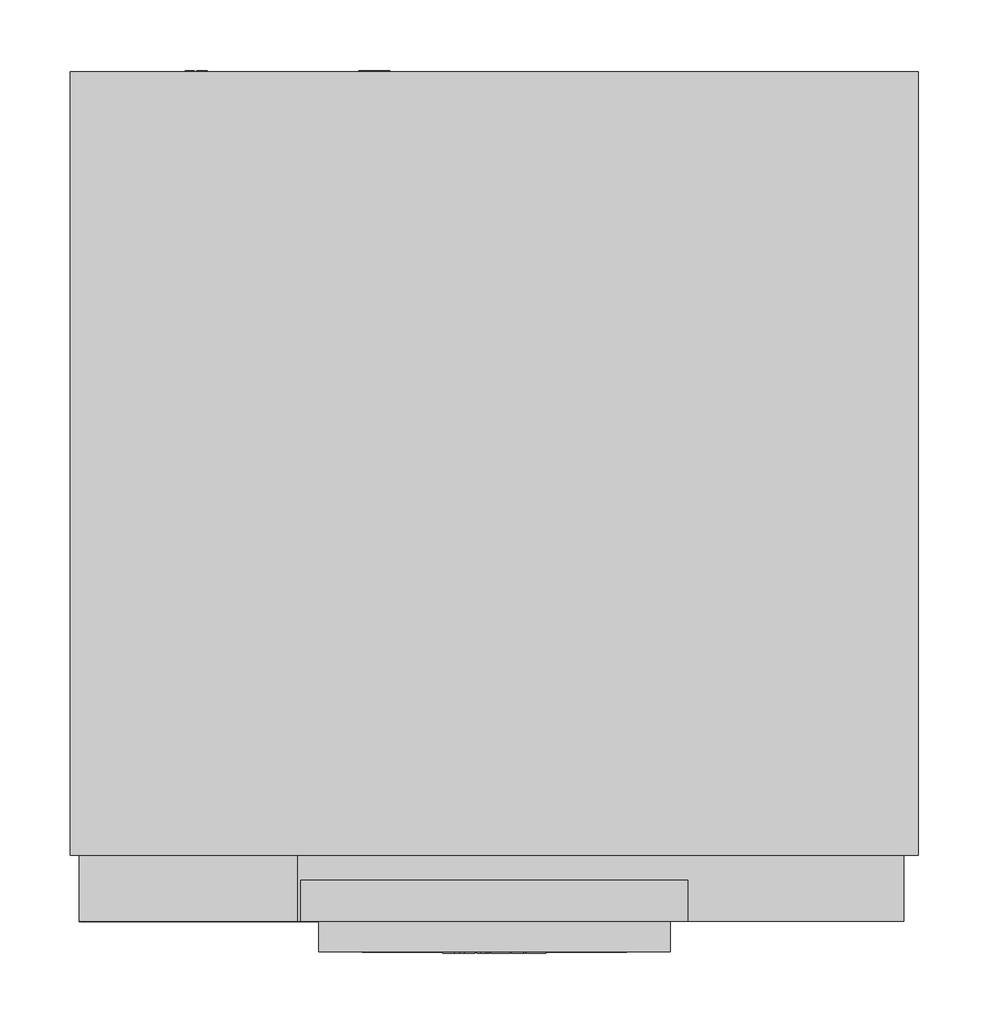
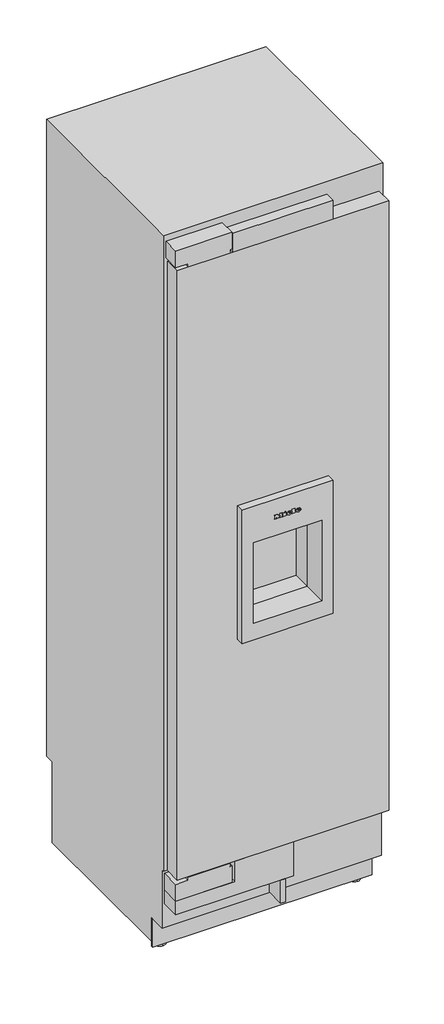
# Not in any storey: 1 proxy.
"""IFC4 building model written with IfcOpenShell, lengths in millimetres."""

import ifcopenshell
import ifcopenshell.guid

model = None  # the IFC model being written
_history = None  # IfcOwnerHistory: only IFC2X3 demands one
_inside = {}  # id of a spatial element -> (the spatial element, [elements in it])
_under = {}  # id of a project, library or spatial element -> (it, [spatial elements below it])
_declared = {}  # id of a project -> (the project, [libraries it declares])
_typed = {}  # id of a type object -> (the type object, [elements of that type])
_made_of = {}  # id of a material, layer set ... -> (it, [elements and type objects made of it])


def new_model(schema):
    """Start an empty IFC model of exactly this schema.

    Asked for "IFC4X3", IfcOpenShell would pick the latest addendum, in which some entities
    have other attributes; the version numbers below select the first issue.
    IFC2X3 requires an IfcOwnerHistory on every rooted entity: one is made here for all.
    """
    global model, _history
    if schema == "IFC4X3":
        model = ifcopenshell.file(schema_version=(4, 3, 0, 0))
    else:
        model = ifcopenshell.file(schema=schema)
    _inside.clear()
    _under.clear()
    _declared.clear()
    _typed.clear()
    _made_of.clear()
    _history = None
    if model.schema == "IFC2X3":
        org = make("IfcOrganization", Name="unknown")
        user = make(
            "IfcPersonAndOrganization",
            ThePerson=make("IfcPerson", FamilyName="unknown"),
            TheOrganization=org,
        )
        app = make(
            "IfcApplication",
            ApplicationDeveloper=org,
            Version="unknown",
            ApplicationFullName="unknown",
            ApplicationIdentifier="unknown",
        )
        _history = make(
            "IfcOwnerHistory",
            OwningUser=user,
            OwningApplication=app,
            ChangeAction="ADDED",
            CreationDate=0,
        )
    return model


def make(cls, **values):
    """One entity of the class cls with the attributes given. An attribute that is None is left unset."""
    return model.create_entity(
        cls, **{name: value for name, value in values.items() if value is not None}
    )


def rooted(cls, **values):
    """An entity with a GlobalId (a new one), such as an element, a storey or a relation."""
    return make(cls, GlobalId=ifcopenshell.guid.new(), OwnerHistory=_history, **values)


def si_unit(unit_type, name, prefix=None):
    """IfcSIUnit, for example si_unit("LENGTHUNIT", "METRE", prefix="MILLI")."""
    return make("IfcSIUnit", UnitType=unit_type, Prefix=prefix, Name=name)


def assignment(units):
    """IfcUnitAssignment: the units of a project."""
    return None if units is None else make("IfcUnitAssignment", Units=units)


def point(xyz):
    """IfcCartesianPoint."""
    return None if xyz is None else make("IfcCartesianPoint", Coordinates=xyz)


def direction(xyz):
    """IfcDirection."""
    return None if xyz is None else make("IfcDirection", DirectionRatios=xyz)


def frame(location, z_axis=None, x_axis=None):
    """IfcAxis2Placement3D, a coordinate frame: its origin and axes. An axis left out is left unset."""
    return make(
        "IfcAxis2Placement3D",
        Location=point(location),
        Axis=direction(z_axis),
        RefDirection=direction(x_axis),
    )


def frame_2d(location, x_axis=None):
    """IfcAxis2Placement2D, a coordinate frame in the plane: its origin and x axis."""
    return make(
        "IfcAxis2Placement2D", Location=point(location), RefDirection=direction(x_axis)
    )


def origin():
    """The frame at (0, 0, 0) with its axes left unset."""
    return frame((0.0, 0.0, 0.0))


def place(relative_to, where):
    """IfcLocalPlacement: puts the frame where relative to a parent placement (None: the world)."""
    return make(
        "IfcLocalPlacement", PlacementRelTo=relative_to, RelativePlacement=where
    )


def context(
    kind, dimensions, precision=None, world=None, true_north=None, identifier=None
):
    """IfcGeometricRepresentationContext, for example the 3D "Model" context."""
    return make(
        "IfcGeometricRepresentationContext",
        ContextIdentifier=identifier,
        ContextType=kind,
        CoordinateSpaceDimension=dimensions,
        Precision=precision,
        WorldCoordinateSystem=world,
        TrueNorth=true_north,
    )


def project(units=None, contexts=None):
    """IfcProject with its units and contexts."""
    return rooted(
        "IfcProject",
        Name="project",
        RepresentationContexts=contexts,
        UnitsInContext=assignment(units),
    )


def spatial(cls, under=None, at=None, **own):
    """A site, building, storey or space (cls), placed at a placement, below another one or the project."""
    s = rooted(cls, ObjectPlacement=at, **own)
    if under is not None:
        _under.setdefault(under.id(), (under, []))[1].append(s)
    return s


def polyline(points):
    """IfcPolyline through the points."""
    return make("IfcPolyline", Points=[point(p) for p in points])


def circle_curve(where, radius):
    """IfcCircle in the frame where."""
    return make("IfcCircle", Position=where, Radius=radius)


def ellipse_curve(where, semi_axis1, semi_axis2):
    """IfcEllipse in the frame where."""
    return make(
        "IfcEllipse", Position=where, SemiAxis1=semi_axis1, SemiAxis2=semi_axis2
    )


def trimmed(basis, trim1, trim2, sense, master):
    """IfcTrimmedCurve: the piece of a basis curve between two trims."""
    return make(
        "IfcTrimmedCurve",
        BasisCurve=basis,
        Trim1=trim1,
        Trim2=trim2,
        SenseAgreement=sense,
        MasterRepresentation=master,
    )


def segment(curve, same_sense, transition):
    """IfcCompositeCurveSegment."""
    return make(
        "IfcCompositeCurveSegment",
        Transition=transition,
        SameSense=same_sense,
        ParentCurve=curve,
    )


def composite_curve(segments, self_intersect=None):
    """IfcCompositeCurve: segments joined end to end."""
    return make("IfcCompositeCurve", Segments=segments, SelfIntersect=self_intersect)


def outline(outer, holes=None, kind="AREA"):
    """IfcArbitraryClosedProfileDef: a profile drawn as a closed curve; with holes, ...WithVoids."""
    if holes is None:
        return make("IfcArbitraryClosedProfileDef", ProfileType=kind, OuterCurve=outer)
    return make(
        "IfcArbitraryProfileDefWithVoids",
        ProfileType=kind,
        OuterCurve=outer,
        InnerCurves=holes,
    )


def extrude(swept, where, along, depth):
    """IfcExtrudedAreaSolid: the profile swept, set in the frame where, extruded along a direction by depth."""
    return make(
        "IfcExtrudedAreaSolid",
        SweptArea=swept,
        Position=where,
        ExtrudedDirection=direction(along),
        Depth=depth,
    )


def faces_of(points, faces, orient=None, outer=None):
    """IfcFace entities. A face is a list of loops; a loop is a list of indices into points, from 0.

    orient and outer hold one flag for each loop. By default every Orientation is true, the
    first loop of a face is its IfcFaceOuterBound and the others are IfcFaceBound.
    """
    made = []
    for i, loops in enumerate(faces):
        bounds = []
        for j, loop in enumerate(loops):
            is_outer = j == 0 if outer is None else outer[i][j]
            bounds.append(
                make(
                    "IfcFaceOuterBound" if is_outer else "IfcFaceBound",
                    Bound=make("IfcPolyLoop", Polygon=[points[k] for k in loop]),
                    Orientation=True if orient is None else orient[i][j],
                )
            )
        made.append(make("IfcFace", Bounds=bounds))
    return made


def faceted_brep(points, faces, orient=None, outer=None, voids=None):
    """IfcFacetedBrep: a solid bounded by flat faces; with voids (closed shells), ...WithVoids."""
    shared = [point(p) for p in points]
    hull = make("IfcClosedShell", CfsFaces=faces_of(shared, faces, orient, outer))
    if voids is None:
        return make("IfcFacetedBrep", Outer=hull)
    return make(
        "IfcFacetedBrepWithVoids",
        Outer=hull,
        Voids=[
            make(cls, CfsFaces=faces_of(shared, fs, o, b)) for cls, fs, o, b in voids
        ],
    )


def shape(context_of_items, identifier, shape_type, items):
    """IfcShapeRepresentation: the items that make up one representation, for example the "Body"."""
    return make(
        "IfcShapeRepresentation",
        ContextOfItems=context_of_items,
        RepresentationIdentifier=identifier,
        RepresentationType=shape_type,
        Items=items,
    )


def source(mapping_origin, context_of_items, identifier, shape_type, items):
    """IfcRepresentationMap: a shape defined once, which mapped items show again and again."""
    return make(
        "IfcRepresentationMap",
        MappingOrigin=mapping_origin,
        MappedRepresentation=shape(context_of_items, identifier, shape_type, items),
    )


def transform(
    local_origin,
    x_axis=None,
    y_axis=None,
    z_axis=None,
    scale=None,
    scale2=None,
    scale3=None,
    uniform=True,
):
    """IfcCartesianTransformationOperator3D, or its non-uniform kind. x_axis, y_axis, z_axis: its Axis1, 2, 3."""
    if uniform:
        return make(
            "IfcCartesianTransformationOperator3D",
            Axis1=direction(x_axis),
            Axis2=direction(y_axis),
            LocalOrigin=point(local_origin),
            Scale=scale,
            Axis3=direction(z_axis),
        )
    return make(
        "IfcCartesianTransformationOperator3DnonUniform",
        Axis1=direction(x_axis),
        Axis2=direction(y_axis),
        LocalOrigin=point(local_origin),
        Scale=scale,
        Axis3=direction(z_axis),
        Scale2=scale2,
        Scale3=scale3,
    )


def mapped(mapping_source, mapping_target):
    """IfcMappedItem: shows the shape of a source again, moved by a transform."""
    return make(
        "IfcMappedItem", MappingSource=mapping_source, MappingTarget=mapping_target
    )


def made_of(thing, what):
    """Note that an element or type object is made of a material, layer set ...; save() writes the relation."""
    if what is not None:
        _made_of.setdefault(what.id(), (what, []))[1].append(thing)
    return thing


def element(
    cls,
    number,
    at=None,
    inside=None,
    cuts=None,
    type_object=None,
    material=None,
    context=None,
    identifier="Body",
    shape_type=None,
    held_by="IfcProductDefinitionShape",
    body=None,
    shapes=None,
    **own,
):
    """One element of the class cls, such as IfcWall. Its Tag is "e" and its number.

    at: its placement. inside: the storey or other place that contains it. cuts: it is an
    opening in that element (IfcRelVoidsElement). A single representation is given by context,
    identifier, shape_type and body (its items); several are given by shapes. held_by: the class
    of the entity that holds the representations. save() writes the other relations.
    """
    e = rooted(cls, Tag="e%d" % number, ObjectPlacement=at, **own)
    if body is not None:
        shapes = [shape(context, identifier, shape_type, body)]
    if shapes is not None:
        e.Representation = make(held_by, Representations=shapes)
    if inside is not None:
        _inside.setdefault(inside.id(), (inside, []))[1].append(e)
    if cuts is not None:
        rooted(
            "IfcRelVoidsElement", RelatingBuildingElement=cuts, RelatedOpeningElement=e
        )
    if type_object is not None:
        _typed.setdefault(type_object.id(), (type_object, []))[1].append(e)
    return made_of(e, material)


def aggregate(whole, parts):
    """IfcRelAggregates: a whole, such as a stair, and the parts it consists of."""
    return rooted("IfcRelAggregates", RelatingObject=whole, RelatedObjects=parts)


def save(model, path):
    """Write the relations noted so far, then the file.

    IfcRelAggregates (storeys below a building ...), IfcRelContainedInSpatialStructure (elements
    in a storey), IfcRelDefinesByType, IfcRelAssociatesMaterial and IfcRelDeclares: one each for
    every whole, place, type object, material and project.
    """
    for whole, parts in _under.values():
        aggregate(whole, parts)
    for where, things in _inside.values():
        rooted(
            "IfcRelContainedInSpatialStructure",
            RelatedElements=things,
            RelatingStructure=where,
        )
    for kind, things in _typed.values():
        rooted("IfcRelDefinesByType", RelatedObjects=things, RelatingType=kind)
    for what, things in _made_of.values():
        rooted("IfcRelAssociatesMaterial", RelatedObjects=things, RelatingMaterial=what)
    for by, libraries in _declared.values():
        rooted("IfcRelDeclares", RelatingContext=by, RelatedDefinitions=libraries)
    model.write(path)


def plane_surface(at):
    """IfcPlane: the flat surface through the origin of the frame at, square to its z axis."""
    return make("IfcPlane", Position=at)


def cylinder_surface(at, radius):
    """IfcCylindricalSurface: all points at the distance radius from the z axis of the frame at."""
    return make("IfcCylindricalSurface", Position=at, Radius=radius)


def revolved_surface(curve, axis_point, axis_direction):
    """IfcSurfaceOfRevolution: the curve turned about the line through axis_point along axis_direction."""
    return make(
        "IfcSurfaceOfRevolution",
        SweptCurve=make("IfcArbitraryOpenProfileDef", ProfileType="CURVE", Curve=curve),
        AxisPosition=make("IfcAxis1Placement", Location=point(axis_point), Axis=direction(axis_direction)),
    )


def extruded_surface(curve, direction_of_extrusion, depth):
    """IfcSurfaceOfLinearExtrusion: the curve pushed along a direction by depth."""
    return make(
        "IfcSurfaceOfLinearExtrusion",
        SweptCurve=make("IfcArbitraryOpenProfileDef", ProfileType="CURVE", Curve=curve),
        ExtrudedDirection=direction(direction_of_extrusion),
        Depth=depth,
    )


def advanced_brep(points, edges, surfaces, faces):
    """IfcAdvancedBrep: a solid bounded by faces that lie on surfaces and meet in shared edges.

    An edge is (start, end): straight between two places in points (the first is 0);
    or (start, end, curve); or (start, end, curve, False) where it runs against its curve.
    A face is (place in surfaces, loops), or (place, loops, False) where it looks against
    its surface's normal. A loop lists edges by number (the first is 1), with a minus sign
    where the edge is run from its end to its start. The first loop is the outer one.
    """
    corners = [point(p) for p in points]
    vertices = [make("IfcVertexPoint", VertexGeometry=c) for c in corners]
    made = []
    for start, end, *more in edges:
        made.append(
            make(
                "IfcEdgeCurve",
                EdgeStart=vertices[start],
                EdgeEnd=vertices[end],
                EdgeGeometry=more[0] if more else make("IfcPolyline", Points=[corners[start], corners[end]]),
                SameSense=more[1] if len(more) > 1 else True,
            )
        )
    hull = []
    for where, loops, *sense in faces:
        bounds = []
        for j, loop in enumerate(loops):
            ring = [make("IfcOrientedEdge", EdgeElement=made[abs(k) - 1], Orientation=k > 0) for k in loop]
            bounds.append(
                make(
                    "IfcFaceOuterBound" if j == 0 else "IfcFaceBound",
                    Bound=make("IfcEdgeLoop", EdgeList=ring),
                    Orientation=True,
                )
            )
        hull.append(make("IfcAdvancedFace", Bounds=bounds, FaceSurface=surfaces[where], SameSense=sense[0] if sense else True))
    return make("IfcAdvancedBrep", Outer=make("IfcClosedShell", CfsFaces=hull))


def specialty_equipment_8bc85f02(model_context):
    return source(origin(), model_context, "Body", "SolidModel", [
        extrude(outline(polyline([(-6.5, 54.0), (6.5, 54.0), (6.5, 0.0), (-6.5, 0.0), (-6.5, 54.0)])), frame((0.0, 0.0, 99.0), z_axis=(0.0, 0.0, 1.0), x_axis=(1.0, 0.0, 0.0)), (0.0, 0.0, 1.0), 67.0),
        faceted_brep([(125.0, -21.7, 1295.0), (-125.0, -21.7, 1295.0), (-125.0, -21.7, 908.0), (125.0, -21.7, 908.0), (94.0, -21.7, 1190.0), (94.0, -21.7, 956.0), (-94.0, -21.7, 956.0), (-94.0, -21.7, 1190.0), (125.0, 47.0, 1295.0), (125.0, 47.0, 908.0), (-125.0, 47.0, 908.0), (-125.0, 47.0, 1295.0), (94.0, 47.0, 1190.0), (-94.0, 47.0, 1190.0), (-94.0, 47.0, 956.0), (94.0, 47.0, 956.0), (-94.0, -11.7943775, 1190.0), (94.0, -11.7943775, 1190.0), (-94.0, -11.7943775, 956.0), (94.0, -11.7943775, 956.0)], [[[0, 1, 2, 3], [4, 5, 6, 7]], [[8, 9, 10, 11], [12, 13, 14, 15]], [[0, 3, 9, 8]], [[3, 2, 10, 9]], [[2, 1, 11, 10]], [[1, 0, 8, 11]], [[4, 7, 16, 13, 12, 17]], [[7, 6, 18, 14, 13, 16]], [[6, 5, 19, 15, 14, 18]], [[5, 4, 17, 12, 15, 19]]]),
        extrude(outline(polyline([(2036.0, 291.0), (2036.0, -291.0), (265.0, -291.0), (265.0, 291.0), (2036.0, 291.0)]), holes=[polyline([(1295.0, 125.0), (908.0, 125.0), (908.0, -125.0), (1295.0, -125.0), (1295.0, 125.0)])]), frame((0.0, 0.0, 0.0), z_axis=(0.0, 1.0, 0.0), x_axis=(0.0, 0.0, 1.0)), (0.0, 0.0, 1.0), 47.0),
        faceted_brep([(-158.0, 47.0, 863.0), (-158.0, 47.0, 1335.0), (-158.0, 239.0, 1335.0), (-158.0, 239.0, 987.0), (-158.0, 140.0, 863.0), (158.0, 47.0, 863.0), (158.0, 140.0, 863.0), (158.0, 239.0, 987.0), (158.0, 239.0, 1335.0), (158.0, 47.0, 1335.0), (94.0, 47.0, 1190.0), (94.0, 47.0, 956.0), (-94.0, 47.0, 956.0), (-94.0, 47.0, 1190.0), (94.0, 100.0, 1190.0), (-94.0, 100.0, 1190.0), (-94.0, 100.0, 956.0), (94.0, 100.0, 956.0)], [[[0, 1, 2, 3, 4]], [[5, 6, 7, 8, 9]], [[0, 4, 6, 5]], [[4, 3, 7, 6]], [[3, 2, 8, 7]], [[2, 1, 9, 8]], [[1, 0, 5, 9], [10, 11, 12, 13]], [[14, 15, 16, 17]], [[14, 17, 11, 10]], [[17, 16, 12, 11]], [[16, 15, 13, 12]], [[15, 14, 10, 13]]]),
        extrude(outline(polyline([(-137.5, 29.0), (137.5, 29.0), (137.5, 0.0), (-137.5, 0.0), (-137.5, 29.0)])), frame((0.0, 0.0, 2036.0), z_axis=(0.0, 0.0, 1.0), x_axis=(1.0, 0.0, 0.0)), (0.0, 0.0, 1.0), 56.0),
        advanced_brep(
        [(28.472, -22.7, 1241.344), (28.472, -22.7, 1242.556), (36.5, -22.7, 1242.556), (22.532, -22.7, 1242.556), (25.832, -22.7, 1238.5), (36.296, -22.7, 1241.344), (32.672, -22.7, 1241.344), (29.816, -22.7, 1240.0), (28.472, -22.7, 1244.092), (28.472, -22.7, 1245.4), (30.524, -22.7, 1245.4), (30.524, -22.7, 1244.092), (28.472, -21.7, 1241.344), (29.816, -21.7, 1240.0), (32.672, -21.7, 1241.344), (36.296, -21.7, 1241.344), (25.832, -21.7, 1238.5), (22.532, -21.7, 1242.556), (36.5, -21.7, 1242.556), (28.472, -21.7, 1242.556), (28.472, -21.7, 1244.092), (30.524, -21.7, 1244.092), (30.524, -21.7, 1245.4), (28.472, -21.7, 1245.4)],
        [
            (0, 1),
            (1, 2),
            (2, 3, ellipse_curve(frame((29.516, -22.7, 1242.556), z_axis=(0.0, -1.0, 0.0), x_axis=(-1.0, 0.0, 0.0)), 6.984, 5.772)),
            (3, 4, circle_curve(frame((27.1760655, -22.7, 1242.964), z_axis=(0.0, -1.0, 0.0), x_axis=(0.0, 0.0, -1.0)), 4.6619532)),
            (4, 5, circle_curve(frame((29.3761904, -22.7, 1246.132), z_axis=(0.0, -1.0, 0.0), x_axis=(0.0, 0.0, -1.0)), 8.4147911)),
            (5, 6),
            (6, 7, circle_curve(frame((30.4025882, -22.7, 1242.46), z_axis=(0.0, 1.0, 0.0), x_axis=(0.0, 0.0, -1.0)), 2.5289693)),
            (7, 0, circle_curve(frame((29.816, -22.7, 1241.344), z_axis=(0.0, 1.0, 0.0), x_axis=(0.0, 0.0, -1.0)), 1.344)),
            (8, 9),
            (9, 10, circle_curve(frame((29.498, -22.7, 1245.4), z_axis=(0.0, 1.0, 0.0), x_axis=(0.0, 0.0, -1.0)), 1.026)),
            (10, 11),
            (11, 8),
            (12, 13, circle_curve(frame((29.816, -21.7, 1241.344), z_axis=(0.0, -1.0, 0.0), x_axis=(0.0, 0.0, -1.0)), 1.344)),
            (13, 14, circle_curve(frame((30.4025882, -21.7, 1242.46), z_axis=(0.0, -1.0, 0.0), x_axis=(0.0, 0.0, -1.0)), 2.5289693)),
            (14, 15),
            (15, 16, circle_curve(frame((29.3761904, -21.7, 1246.132), z_axis=(0.0, 1.0, 0.0), x_axis=(0.0, 0.0, -1.0)), 8.4147911)),
            (16, 17, circle_curve(frame((27.1760655, -21.7, 1242.964), z_axis=(0.0, 1.0, 0.0), x_axis=(0.0, 0.0, -1.0)), 4.6619532)),
            (17, 18, ellipse_curve(frame((29.516, -21.7, 1242.556), z_axis=(0.0, 1.0, 0.0), x_axis=(-1.0, 0.0, 0.0)), 6.984, 5.772)),
            (18, 19),
            (19, 12),
            (20, 21),
            (21, 22),
            (22, 23, circle_curve(frame((29.498, -21.7, 1245.4), z_axis=(0.0, -1.0, 0.0), x_axis=(0.0, 0.0, -1.0)), 1.026)),
            (23, 20),
            (0, 12),
            (19, 1),
            (18, 2),
            (5, 15),
            (14, 6),
            (17, 3),
            (13, 7),
            (16, 4),
            (8, 20),
            (23, 9),
            (22, 10),
            (21, 11),
        ],
        [
            plane_surface(frame((28.472, -22.7, 1242.556), z_axis=(0.0, -1.0, 0.0), x_axis=(0.0, 0.0, 1.0))),
            plane_surface(frame((28.472, -21.7, 1242.556), z_axis=(0.0, 1.0, 0.0), x_axis=(0.0, 0.0, -1.0))),
            plane_surface(frame((28.472, -22.7, 1241.344), z_axis=(1.0, 0.0, 0.0), x_axis=(0.0, 1.0, 0.0))),
            plane_surface(frame((28.472, -22.7, 1242.556), z_axis=(0.0, 0.0, -1.0), x_axis=(0.0, 1.0, 0.0))),
            plane_surface(frame((36.296, -22.7, 1241.344), z_axis=(0.0, 0.0, 1.0), x_axis=(0.0, 1.0, 0.0))),
            extruded_surface(trimmed(ellipse_curve(frame((29.516, -20.7, 1242.556), z_axis=(0.0, -1.0, 0.0), x_axis=(-1.0, 0.0, 0.0)), 6.984, 5.772), [point((36.5, -20.7, 1242.556))], [point((22.532, -20.7, 1242.556))], True, "CARTESIAN"), (0.0, -1.0, 0.0), 1.0),
            revolved_surface(polyline([(30.4025882, -21.7, 1239.9310307), (30.4025882, -22.7, 1239.9310307)]), (30.4025882, -21.7, 1242.46), (0.0, 1.0, 0.0)),
            revolved_surface(polyline([(29.816, -21.7, 1240.0), (29.816, -22.7, 1240.0)]), (29.816, -21.7, 1241.344), (0.0, 1.0, 0.0)),
            cylinder_surface(frame((27.1760655, -21.7, 1242.964), z_axis=(0.0, -1.0, 0.0), x_axis=(0.0, 0.0, -1.0)), 4.6619532),
            cylinder_surface(frame((29.3761904, -21.7, 1246.132), z_axis=(0.0, -1.0, 0.0), x_axis=(0.0, 0.0, -1.0)), 8.4147911),
            plane_surface(frame((28.472, -22.7, 1244.092), z_axis=(1.0, 0.0, 0.0), x_axis=(0.0, 1.0, 0.0))),
            revolved_surface(polyline([(29.498, -21.7, 1244.374), (29.498, -22.7, 1244.374)]), (29.498, -21.7, 1245.4), (0.0, 1.0, 0.0)),
            plane_surface(frame((30.524, -22.7, 1245.4), z_axis=(-1.0, 0.0, 0.0), x_axis=(0.0, 1.0, 0.0))),
            plane_surface(frame((30.524, -22.7, 1244.092), z_axis=(0.0, 0.0, 1.0), x_axis=(0.0, 1.0, 0.0))),
        ],
        [
            (0, [[1, 2, 3, 4, 5, 6, 7, 8], [9, 10, 11, 12]]),
            (1, [[13, 14, 15, 16, 17, 18, 19, 20], [21, 22, 23, 24]]),
            (2, [[-1, 25, -20, 26]]),
            (3, [[-2, -26, -19, 27]]),
            (4, [[-6, 28, -15, 29]]),
            (5, [[-3, -27, -18, 30]]),
            (6, [[-7, -29, -14, 31]]),
            (7, [[-8, -31, -13, -25]]),
            (8, [[-4, -30, -17, 32]]),
            (9, [[-5, -32, -16, -28]]),
            (10, [[-9, 33, -24, 34]]),
            (11, [[-10, -34, -23, 35]]),
            (12, [[-11, -35, -22, 36]]),
            (13, [[-12, -36, -21, -33]]),
        ],
    ),
        advanced_brep(
        [(3.428, -22.7, 1241.344), (3.428, -22.7, 1242.556), (11.456, -22.7, 1242.556), (-2.512, -22.7, 1242.556), (0.788, -22.7, 1238.5), (11.252, -22.7, 1241.344), (7.628, -22.7, 1241.344), (4.772, -22.7, 1240.0), (3.428, -22.7, 1244.092), (3.428, -22.7, 1245.4), (5.48, -22.7, 1245.4), (5.48, -22.7, 1244.092), (3.428, -21.7, 1241.344), (4.772, -21.7, 1240.0), (7.628, -21.7, 1241.344), (11.252, -21.7, 1241.344), (0.788, -21.7, 1238.5), (-2.512, -21.7, 1242.556), (11.456, -21.7, 1242.556), (3.428, -21.7, 1242.556), (3.428, -21.7, 1244.092), (5.48, -21.7, 1244.092), (5.48, -21.7, 1245.4), (3.428, -21.7, 1245.4)],
        [
            (0, 1),
            (1, 2),
            (2, 3, ellipse_curve(frame((4.472, -22.7, 1242.556), z_axis=(0.0, -1.0, 0.0), x_axis=(-1.0, 0.0, 0.0)), 6.984, 5.772)),
            (3, 4, circle_curve(frame((2.1320655, -22.7, 1242.964), z_axis=(0.0, -1.0, 0.0), x_axis=(0.0, 0.0, -1.0)), 4.6619532)),
            (4, 5, circle_curve(frame((4.3321904, -22.7, 1246.132), z_axis=(0.0, -1.0, 0.0), x_axis=(0.0, 0.0, -1.0)), 8.4147911)),
            (5, 6),
            (6, 7, circle_curve(frame((5.3585882, -22.7, 1242.46), z_axis=(0.0, 1.0, 0.0), x_axis=(0.0, 0.0, -1.0)), 2.5289693)),
            (7, 0, circle_curve(frame((4.772, -22.7, 1241.344), z_axis=(0.0, 1.0, 0.0), x_axis=(0.0, 0.0, -1.0)), 1.344)),
            (8, 9),
            (9, 10, circle_curve(frame((4.454, -22.7, 1245.4), z_axis=(0.0, 1.0, 0.0), x_axis=(0.0, 0.0, -1.0)), 1.026)),
            (10, 11),
            (11, 8),
            (12, 13, circle_curve(frame((4.772, -21.7, 1241.344), z_axis=(0.0, -1.0, 0.0), x_axis=(0.0, 0.0, -1.0)), 1.344)),
            (13, 14, circle_curve(frame((5.3585882, -21.7, 1242.46), z_axis=(0.0, -1.0, 0.0), x_axis=(0.0, 0.0, -1.0)), 2.5289693)),
            (14, 15),
            (15, 16, circle_curve(frame((4.3321904, -21.7, 1246.132), z_axis=(0.0, 1.0, 0.0), x_axis=(0.0, 0.0, -1.0)), 8.4147911)),
            (16, 17, circle_curve(frame((2.1320655, -21.7, 1242.964), z_axis=(0.0, 1.0, 0.0), x_axis=(0.0, 0.0, -1.0)), 4.6619532)),
            (17, 18, ellipse_curve(frame((4.472, -21.7, 1242.556), z_axis=(0.0, 1.0, 0.0), x_axis=(-1.0, 0.0, 0.0)), 6.984, 5.772)),
            (18, 19),
            (19, 12),
            (20, 21),
            (21, 22),
            (22, 23, circle_curve(frame((4.454, -21.7, 1245.4), z_axis=(0.0, -1.0, 0.0), x_axis=(0.0, 0.0, -1.0)), 1.026)),
            (23, 20),
            (0, 12),
            (19, 1),
            (18, 2),
            (5, 15),
            (14, 6),
            (17, 3),
            (13, 7),
            (16, 4),
            (8, 20),
            (23, 9),
            (22, 10),
            (21, 11),
        ],
        [
            plane_surface(frame((3.428, -22.7, 1242.556), z_axis=(0.0, -1.0, 0.0), x_axis=(0.0, 0.0, 1.0))),
            plane_surface(frame((3.428, -21.7, 1242.556), z_axis=(0.0, 1.0, 0.0), x_axis=(0.0, 0.0, -1.0))),
            plane_surface(frame((3.428, -22.7, 1241.344), z_axis=(1.0, 0.0, 0.0), x_axis=(0.0, 1.0, 0.0))),
            plane_surface(frame((3.428, -22.7, 1242.556), z_axis=(0.0, 0.0, -1.0), x_axis=(0.0, 1.0, 0.0))),
            plane_surface(frame((11.252, -22.7, 1241.344), z_axis=(0.0, 0.0, 1.0), x_axis=(0.0, 1.0, 0.0))),
            extruded_surface(trimmed(ellipse_curve(frame((4.472, -20.7, 1242.556), z_axis=(0.0, -1.0, 0.0), x_axis=(-1.0, 0.0, 0.0)), 6.984, 5.772), [point((11.456, -20.7, 1242.556))], [point((-2.512, -20.7, 1242.556))], True, "CARTESIAN"), (0.0, -1.0, 0.0), 1.0),
            revolved_surface(polyline([(5.3585882, -21.7, 1239.9310307), (5.3585882, -22.7, 1239.9310307)]), (5.3585882, -21.7, 1242.46), (0.0, 1.0, 0.0)),
            revolved_surface(polyline([(4.772, -21.7, 1240.0), (4.772, -22.7, 1240.0)]), (4.772, -21.7, 1241.344), (0.0, 1.0, 0.0)),
            cylinder_surface(frame((2.1320655, -21.7, 1242.964), z_axis=(0.0, -1.0, 0.0), x_axis=(0.0, 0.0, -1.0)), 4.6619532),
            cylinder_surface(frame((4.3321904, -21.7, 1246.132), z_axis=(0.0, -1.0, 0.0), x_axis=(0.0, 0.0, -1.0)), 8.4147911),
            plane_surface(frame((3.428, -22.7, 1244.092), z_axis=(1.0, 0.0, 0.0), x_axis=(0.0, 1.0, 0.0))),
            revolved_surface(polyline([(4.454, -21.7, 1244.374), (4.454, -22.7, 1244.374)]), (4.454, -21.7, 1245.4), (0.0, 1.0, 0.0)),
            plane_surface(frame((5.48, -22.7, 1245.4), z_axis=(-1.0, 0.0, 0.0), x_axis=(0.0, 1.0, 0.0))),
            plane_surface(frame((5.48, -22.7, 1244.092), z_axis=(0.0, 0.0, 1.0), x_axis=(0.0, 1.0, 0.0))),
        ],
        [
            (0, [[1, 2, 3, 4, 5, 6, 7, 8], [9, 10, 11, 12]]),
            (1, [[13, 14, 15, 16, 17, 18, 19, 20], [21, 22, 23, 24]]),
            (2, [[-1, 25, -20, 26]]),
            (3, [[-2, -26, -19, 27]]),
            (4, [[-6, 28, -15, 29]]),
            (5, [[-3, -27, -18, 30]]),
            (6, [[-7, -29, -14, 31]]),
            (7, [[-8, -31, -13, -25]]),
            (8, [[-4, -30, -17, 32]]),
            (9, [[-5, -32, -16, -28]]),
            (10, [[-9, 33, -24, 34]]),
            (11, [[-10, -34, -23, 35]]),
            (12, [[-11, -35, -22, 36]]),
            (13, [[-12, -36, -21, -33]]),
        ],
    ),
        extrude(outline(polyline([(1249.792, -9.688), (1247.848, -8.776), (1249.744, -4.708), (1251.688, -5.608), (1249.792, -9.688)])), frame((0.0, -22.7, 0.0), z_axis=(0.0, 1.0, 0.0), x_axis=(0.0, 0.0, 1.0)), (0.0, 0.0, 1.0), 1.0),
        extrude(outline(polyline([(1247.584, -12.652), (1245.436, -12.652), (1245.436, -11.224), (1240.516, -11.224), (1240.516, -12.652), (1238.5, -12.652), (1238.5, -3.184), (1240.516, -3.184), (1240.516, -4.576), (1247.584, -4.576), (1247.584, -12.652)])), frame((0.0, -22.7, 0.0), z_axis=(0.0, 1.0, 0.0), x_axis=(0.0, 0.0, 1.0)), (0.0, 0.0, 1.0), 1.0),
        extrude(outline(polyline([(1248.544, 12.128), (1248.544, 13.568), (1240.516, 13.568), (1240.516, 12.128), (1238.5, 12.128), (1238.5, 21.86), (1240.516, 21.86), (1240.516, 20.384), (1250.5, 20.384), (1250.5, 12.128), (1248.544, 12.128)])), frame((0.0, -22.7, 0.0), z_axis=(0.0, 1.0, 0.0), x_axis=(0.0, 0.0, 1.0)), (0.0, 0.0, 1.0), 1.0),
        extrude(outline(polyline([(1248.544, -36.568), (1248.544, -35.116), (1240.516, -35.116), (1240.516, -36.568), (1238.5, -36.568), (1238.5, -31.288), (1240.516, -31.288), (1240.516, -32.728), (1245.5951247, -32.728), (1238.5, -27.364), (1245.8152223, -21.976), (1240.516, -21.976), (1240.516, -23.452), (1238.5, -23.452), (1238.5, -13.876), (1240.516, -13.876), (1240.516, -15.4), (1248.544, -15.4), (1248.544, -13.876), (1250.5, -13.876), (1250.5, -21.184), (1246.0, -24.688), (1250.5, -28.204), (1250.5, -36.568), (1248.544, -36.568)])), frame((0.0, -22.7, 0.0), z_axis=(0.0, 1.0, 0.0), x_axis=(0.0, 0.0, 1.0)), (0.0, 0.0, 1.0), 1.0),
        extrude(outline(polyline([(519.0, 1998.0), (519.0, 1799.0), (447.0526316, 1799.0), (422.0, 1867.0), (201.7448904, 1867.0), (157.0, 1939.0), (87.0, 1949.0), (87.0, 1998.0), (519.0, 1998.0)])), frame((-255.5, 0.0, 0.0), z_axis=(1.0, 0.0, 0.0), x_axis=(0.0, 1.0, 0.0)), (0.0, 0.0, 1.0), 511.0),
        extrude(outline(polyline([(196.9886114, 1875.0), (195.809433, 1875.0), (158.6921935, 1934.4), (159.8713719, 1934.4), (196.9886114, 1875.0)])), frame((-69.0, 0.0, 0.0), z_axis=(1.0, 0.0, 0.0), x_axis=(0.0, 1.0, 0.0)), (0.0, 0.0, 1.0), 138.0),
        extrude(outline(polyline([(46.0510837, -84.101717), (37.4134902, -86.1745179), (46.0453554, -88.6868463), (46.0453554, -90.5601414), (37.4089549, -93.0799633), (46.0493903, -95.1581876), (46.0493903, -96.4649805), (36.0005458, -93.7156324), (36.0005458, -92.372208), (44.8261022, -89.6342221), (35.9987467, -87.0620509), (35.9987287, -85.5451466), (46.0510837, -82.800191), (46.0510837, -84.101717)])), frame((0.0, 604.0, 0.0), z_axis=(0.0, 1.0, 0.0), x_axis=(0.0, 0.0, 1.0)), (0.0, 0.0, 1.0), 1.0),
        extrude(outline(polyline([(46.0485238, -75.7401503), (41.1363122, -75.7401503), (46.0468162, -80.884602), (46.0468162, -82.6328316), (41.9156889, -78.3260313), (36.000035, -82.8032231), (36.000035, -81.2795519), (41.0742849, -77.4391666), (39.4525334, -75.7395503), (35.9999292, -75.7395503), (35.9999292, -74.4795491), (46.0485238, -74.4795491), (46.0485238, -75.7401503)])), frame((0.0, 604.0, 0.0), z_axis=(0.0, 1.0, 0.0), x_axis=(0.0, 0.0, 1.0)), (0.0, 0.0, 1.0), 1.0),
        extrude(outline(composite_curve([segment(trimmed(circle_curve(frame_2d((41.0, -85.0)), 7.5), [point((33.5, -85.0))], [point((48.5, -85.0))], False, "CARTESIAN"), True, "CONTINUOUS"), segment(trimmed(circle_curve(frame_2d((41.0, -85.0)), 7.5), [point((48.5, -85.0))], [point((33.5, -85.0))], False, "CARTESIAN"), True, "CONTINUOUS")], self_intersect=False)), frame((0.0, 577.0, 0.0), z_axis=(0.0, 1.0, 0.0), x_axis=(0.0, 0.0, 1.0)), (0.0, 0.0, 1.0), 27.0),
        extrude(outline(polyline([(2095.0, -295.0), (2047.0, -295.0), (2047.0, -261.0), (2036.5, -261.0), (2036.5, -146.0), (2047.0, -146.0), (2047.0, -140.0), (2095.0, -140.0), (2095.0, -295.0)])), frame((0.0, 0.0, 0.0), z_axis=(0.0, 1.0, 0.0), x_axis=(0.0, 0.0, 1.0)), (0.0, 0.0, 1.0), 47.0),
        extrude(outline(polyline([(254.0, -295.0), (206.0, -295.0), (206.0, -140.0), (254.0, -140.0), (254.0, -146.0), (264.0, -146.0), (264.0, -261.0), (254.0, -261.0), (254.0, -295.0)])), frame((0.0, 0.0, 0.0), z_axis=(0.0, 1.0, 0.0), x_axis=(0.0, 0.0, 1.0)), (0.0, 0.0, 1.0), 54.0),
        extrude(outline(polyline([(265.0, -131.5), (205.0, -131.5), (205.0, -295.0), (166.0, -295.0), (166.0, 28.5), (265.0, 28.5), (265.0, -131.5)])), frame((0.0, 0.0, 0.0), z_axis=(0.0, 1.0, 0.0), x_axis=(0.0, 0.0, 1.0)), (0.0, 0.0, 1.0), 54.0),
        extrude(outline(polyline([(99.0373308, -211.2645771), (97.7615342, -211.2645771), (97.7615342, -205.3195541), (94.7968516, -205.3195541), (94.7968516, -210.969579), (93.5246295, -210.969579), (93.5246295, -205.3415693), (90.2570046, -205.3415693), (90.2570046, -211.4619689), (88.9546219, -211.4619689), (88.9546219, -204.0443524), (99.0373308, -204.0443524), (99.0373308, -211.2645771)])), frame((0.0, 604.0, 0.0), z_axis=(0.0, 1.0, 0.0), x_axis=(0.0, 0.0, 1.0)), (0.0, 0.0, 1.0), 1.0),
        extrude(outline(polyline([(99.0458, -214.5619704), (90.2663944, -214.5619704), (90.2663944, -219.6145879), (89.0134802, -219.6145879), (89.0134802, -213.3423809), (99.0458, -213.3423809), (99.0458, -214.5619704)])), frame((0.0, 604.0, 0.0), z_axis=(0.0, 1.0, 0.0), x_axis=(0.0, 0.0, 1.0)), (0.0, 0.0, 1.0), 1.0),
        extrude(outline(composite_curve([segment(trimmed(circle_curve(frame_2d((94.0, -211.5)), 7.5), [point((86.5, -211.5))], [point((101.5, -211.5))], False, "CARTESIAN"), True, "CONTINUOUS"), segment(trimmed(circle_curve(frame_2d((94.0, -211.5)), 7.5), [point((101.5, -211.5))], [point((86.5, -211.5))], False, "CARTESIAN"), True, "CONTINUOUS")], self_intersect=False)), frame((0.0, 577.0, 0.0), z_axis=(0.0, 1.0, 0.0), x_axis=(0.0, 0.0, 1.0)), (0.0, 0.0, 1.0), 27.0),
        extrude(outline(polyline([(-301.5, 104.0), (301.5, 104.0), (301.5, 99.0), (-301.5, 99.0), (-301.5, 104.0)])), frame((0.0, 0.0, 14.0), z_axis=(0.0, 0.0, 1.0), x_axis=(1.0, 0.0, 0.0)), (0.0, 0.0, 1.0), 83.0),
        advanced_brep(
        [(-267.5, 139.0, 0.0), (-267.5, 109.0, 0.0), (-267.5, 139.0, 7.0), (-267.5, 109.0, 7.0), (-267.5, 128.7, 7.0), (-267.5, 119.3, 7.0), (-267.5, 128.7, 28.0), (-267.5, 119.3, 28.0)],
        [
            (0, 1, circle_curve(frame((-267.5, 124.0, 0.0), z_axis=(0.0, 0.0, -1.0), x_axis=(1.0, 0.0, 0.0)), 15.0)),
            (1, 0, circle_curve(frame((-267.5, 124.0, 0.0), z_axis=(0.0, 0.0, -1.0), x_axis=(1.0, 0.0, 0.0)), 15.0)),
            (2, 3, circle_curve(frame((-267.5, 124.0, 7.0), z_axis=(0.0, 0.0, 1.0), x_axis=(1.0, 0.0, 0.0)), 15.0)),
            (3, 2, circle_curve(frame((-267.5, 124.0, 7.0), z_axis=(0.0, 0.0, 1.0), x_axis=(1.0, 0.0, 0.0)), 15.0)),
            (4, 5, circle_curve(frame((-267.5, 124.0, 7.0), z_axis=(0.0, 0.0, -1.0), x_axis=(0.0, -1.0, 0.0)), 4.7)),
            (5, 4, circle_curve(frame((-267.5, 124.0, 7.0), z_axis=(0.0, 0.0, -1.0), x_axis=(0.0, -1.0, 0.0)), 4.7)),
            (0, 2),
            (3, 1),
            (6, 7, circle_curve(frame((-267.5, 124.0, 28.0), z_axis=(0.0, 0.0, 1.0), x_axis=(0.0, -1.0, 0.0)), 4.7)),
            (7, 6, circle_curve(frame((-267.5, 124.0, 28.0), z_axis=(0.0, 0.0, 1.0), x_axis=(0.0, -1.0, 0.0)), 4.7)),
            (7, 5),
            (4, 6),
        ],
        [
            plane_surface(frame((-252.5, 124.0, 0.0), z_axis=(0.0, 0.0, -1.0), x_axis=(0.0, -1.0, 0.0))),
            plane_surface(frame((-252.5, 124.0, 7.0), z_axis=(0.0, 0.0, 1.0), x_axis=(0.0, 1.0, 0.0))),
            cylinder_surface(frame((-267.5, 124.0, 7.0), z_axis=(0.0, 0.0, -1.0), x_axis=(1.0, 0.0, 0.0)), 15.0),
            plane_surface(frame((-267.5, 119.3, 28.0), z_axis=(0.0, 0.0, 1.0), x_axis=(1.0, 0.0, 0.0))),
            cylinder_surface(frame((-267.5, 124.0, 28.0), z_axis=(0.0, 0.0, -1.0), x_axis=(0.0, -1.0, 0.0)), 4.7),
        ],
        [
            (0, [[1, 2]]),
            (1, [[3, 4], [5, 6]]),
            (2, [[-1, 7, -4, 8]]),
            (2, [[-2, -8, -3, -7]]),
            (3, [[9, 10]]),
            (4, [[-10, 11, -5, 12]]),
            (4, [[-9, -12, -6, -11]]),
        ],
    ),
        advanced_brep(
        [(267.5, 139.0, 0.0), (267.5, 109.0, 0.0), (267.5, 139.0, 7.0), (267.5, 109.0, 7.0), (267.5, 128.7, 7.0), (267.5, 119.3, 7.0), (267.5, 128.7, 28.0), (267.5, 119.3, 28.0)],
        [
            (0, 1, circle_curve(frame((267.5, 124.0, 0.0), z_axis=(0.0, 0.0, -1.0), x_axis=(1.0, 0.0, 0.0)), 15.0)),
            (1, 0, circle_curve(frame((267.5, 124.0, 0.0), z_axis=(0.0, 0.0, -1.0), x_axis=(1.0, 0.0, 0.0)), 15.0)),
            (2, 3, circle_curve(frame((267.5, 124.0, 7.0), z_axis=(0.0, 0.0, 1.0), x_axis=(1.0, 0.0, 0.0)), 15.0)),
            (3, 2, circle_curve(frame((267.5, 124.0, 7.0), z_axis=(0.0, 0.0, 1.0), x_axis=(1.0, 0.0, 0.0)), 15.0)),
            (4, 5, circle_curve(frame((267.5, 124.0, 7.0), z_axis=(0.0, 0.0, -1.0), x_axis=(0.0, -1.0, 0.0)), 4.7)),
            (5, 4, circle_curve(frame((267.5, 124.0, 7.0), z_axis=(0.0, 0.0, -1.0), x_axis=(0.0, -1.0, 0.0)), 4.7)),
            (0, 2),
            (3, 1),
            (6, 7, circle_curve(frame((267.5, 124.0, 28.0), z_axis=(0.0, 0.0, 1.0), x_axis=(0.0, -1.0, 0.0)), 4.7)),
            (7, 6, circle_curve(frame((267.5, 124.0, 28.0), z_axis=(0.0, 0.0, 1.0), x_axis=(0.0, -1.0, 0.0)), 4.7)),
            (7, 5),
            (4, 6),
        ],
        [
            plane_surface(frame((-252.5, 124.0, 0.0), z_axis=(0.0, 0.0, -1.0), x_axis=(0.0, -1.0, 0.0))),
            plane_surface(frame((-252.5, 124.0, 7.0), z_axis=(0.0, 0.0, 1.0), x_axis=(0.0, 1.0, 0.0))),
            cylinder_surface(frame((267.5, 124.0, 7.0), z_axis=(0.0, 0.0, -1.0), x_axis=(1.0, 0.0, 0.0)), 15.0),
            plane_surface(frame((-267.5, 119.3, 28.0), z_axis=(0.0, 0.0, 1.0), x_axis=(1.0, 0.0, 0.0))),
            cylinder_surface(frame((267.5, 124.0, 28.0), z_axis=(0.0, 0.0, -1.0), x_axis=(0.0, -1.0, 0.0)), 4.7),
        ],
        [
            (0, [[1, 2]]),
            (1, [[3, 4], [5, 6]]),
            (2, [[-1, 7, -4, 8]]),
            (2, [[-2, -8, -3, -7]]),
            (3, [[9, 10]]),
            (4, [[-10, 11, -5, 12]]),
            (4, [[-9, -12, -6, -11]]),
        ],
    ),
        advanced_brep(
        [(301.5, 47.0, 2114.0), (301.5, 47.0, 267.0), (301.5, 54.0, 267.0), (301.5, 54.0, 97.0), (301.5, 104.0, 97.0), (301.5, 104.0, 28.0), (301.5, 577.0, 28.0), (301.5, 577.0, 263.0), (301.5, 604.0, 263.0), (301.5, 604.0, 2114.0), (-301.5, 47.0, 2114.0), (-301.5, 604.0, 2114.0), (-301.5, 604.0, 263.0), (-301.5, 577.0, 263.0), (-301.5, 577.0, 28.0), (-301.5, 104.0, 28.0), (-301.5, 104.0, 97.0), (-301.5, 54.0, 97.0), (-301.5, 54.0, 267.0), (-301.5, 47.0, 267.0), (241.5, 577.0, 28.0), (241.5, 577.0, 14.0), (-241.5, 577.0, 14.0), (-241.5, 577.0, 28.0), (241.5, 104.0, 14.0), (-241.5, 104.0, 14.0), (-241.5, 104.0, 28.0), (241.5, 104.0, 28.0), (255.5, 47.0, 1998.0), (255.5, 47.0, 343.0), (-255.5, 47.0, 343.0), (-255.5, 47.0, 1998.0), (255.5, 519.0, 1998.0), (-255.5, 519.0, 1998.0), (-255.5, 519.0, 343.0), (255.5, 519.0, 343.0), (-260.0, 202.8193473, 28.0), (-279.0, 202.8193473, 28.0), (-279.0, 153.1806527, 28.0), (-260.0, 153.1806527, 28.0), (-279.5, 525.8193473, 28.0), (-279.5, 476.1806527, 28.0), (-263.5, 476.1806527, 28.0), (-263.5, 525.8193473, 28.0), (279.0, 153.1806527, 28.0), (279.0, 202.8193473, 28.0), (260.0, 202.8193473, 28.0), (260.0, 153.1806527, 28.0), (263.5, 525.8193473, 28.0), (263.5, 476.1806527, 28.0), (279.5, 476.1806527, 28.0), (279.5, 525.8193473, 28.0), (-260.0, 203.0, 25.0), (-260.0, 153.0, 25.0), (-279.0, 153.0, 25.0), (-279.0, 203.0, 25.0), (-260.0, 178.0, 25.0), (-279.0, 178.0, 25.0), (279.0, 178.0, 25.0), (279.0, 153.0, 25.0), (279.0, 203.0, 25.0), (260.0, 203.0, 25.0), (260.0, 153.0, 25.0), (260.0, 178.0, 25.0), (-279.5, 526.0, 25.0), (-279.5, 476.0, 25.0), (-279.5, 501.0, 25.0), (-263.5, 526.0, 25.0), (-263.5, 476.0, 25.0), (-263.5, 501.0, 25.0), (263.5, 526.0, 25.0), (263.5, 476.0, 25.0), (263.5, 501.0, 25.0), (279.5, 526.0, 25.0), (279.5, 476.0, 25.0), (279.5, 501.0, 25.0)],
        [
            (0, 1),
            (1, 2),
            (2, 3),
            (3, 4),
            (4, 5),
            (5, 6),
            (6, 7),
            (7, 8),
            (8, 9),
            (9, 0),
            (10, 11),
            (11, 12),
            (12, 13),
            (13, 14),
            (14, 15),
            (15, 16),
            (16, 17),
            (17, 18),
            (18, 19),
            (19, 10),
            (9, 11),
            (10, 0),
            (8, 12),
            (7, 13),
            (6, 20),
            (20, 21),
            (21, 22),
            (22, 23),
            (23, 14),
            (21, 24),
            (24, 25),
            (25, 22),
            (4, 16),
            (15, 26),
            (26, 25),
            (24, 27),
            (27, 5),
            (3, 17),
            (2, 18),
            (1, 19),
            (28, 29),
            (29, 30),
            (30, 31),
            (31, 28),
            (32, 33),
            (33, 34),
            (34, 35),
            (35, 32),
            (35, 29),
            (28, 32),
            (34, 30),
            (33, 31),
            (23, 26),
            (36, 37),
            (37, 38),
            (38, 39),
            (39, 36),
            (40, 41),
            (41, 42),
            (42, 43),
            (43, 40),
            (27, 20),
            (44, 45),
            (45, 46),
            (46, 47),
            (47, 44),
            (48, 49),
            (49, 50),
            (50, 51),
            (51, 48),
            (52, 53, circle_curve(frame((-260.0, 178.0, 25.0), z_axis=(-1.0, 0.0, 0.0), x_axis=(0.0, -1.0, 0.0)), 25.0)),
            (53, 54),
            (54, 55, circle_curve(frame((-279.0, 178.0, 25.0), z_axis=(1.0, 0.0, 0.0), x_axis=(0.0, -1.0, 0.0)), 25.0)),
            (55, 52),
            (53, 39, circle_curve(frame((-260.0, 178.0, 25.0), z_axis=(-1.0, 0.0, 0.0), x_axis=(0.0, -1.0, 0.0)), 25.0)),
            (38, 54, circle_curve(frame((-279.0, 178.0, 25.0), z_axis=(1.0, 0.0, 0.0), x_axis=(0.0, -1.0, 0.0)), 25.0)),
            (55, 37, circle_curve(frame((-279.0, 178.0, 25.0), z_axis=(1.0, 0.0, 0.0), x_axis=(0.0, -1.0, 0.0)), 25.0)),
            (36, 52, circle_curve(frame((-260.0, 178.0, 25.0), z_axis=(-1.0, 0.0, 0.0), x_axis=(0.0, -1.0, 0.0)), 25.0)),
            (52, 56),
            (56, 53),
            (54, 57),
            (57, 55),
            (58, 59),
            (59, 60, circle_curve(frame((279.0, 178.0, 25.0), z_axis=(1.0, 0.0, 0.0), x_axis=(0.0, -1.0, 0.0)), 25.0)),
            (60, 58),
            (60, 45, circle_curve(frame((279.0, 178.0, 25.0), z_axis=(1.0, 0.0, 0.0), x_axis=(0.0, -1.0, 0.0)), 25.0)),
            (44, 59, circle_curve(frame((279.0, 178.0, 25.0), z_axis=(1.0, 0.0, 0.0), x_axis=(0.0, -1.0, 0.0)), 25.0)),
            (61, 62, circle_curve(frame((260.0, 178.0, 25.0), z_axis=(-1.0, 0.0, 0.0), x_axis=(0.0, -1.0, 0.0)), 25.0)),
            (62, 63),
            (63, 61),
            (62, 47, circle_curve(frame((260.0, 178.0, 25.0), z_axis=(-1.0, 0.0, 0.0), x_axis=(0.0, -1.0, 0.0)), 25.0)),
            (46, 61, circle_curve(frame((260.0, 178.0, 25.0), z_axis=(-1.0, 0.0, 0.0), x_axis=(0.0, -1.0, 0.0)), 25.0)),
            (64, 65, circle_curve(frame((-279.5, 501.0, 25.0), z_axis=(-1.0, 0.0, 0.0), x_axis=(0.0, -1.0, 0.0)), 25.0)),
            (65, 66),
            (66, 64),
            (65, 41, circle_curve(frame((-279.5, 501.0, 25.0), z_axis=(-1.0, 0.0, 0.0), x_axis=(0.0, -1.0, 0.0)), 25.0)),
            (40, 64, circle_curve(frame((-279.5, 501.0, 25.0), z_axis=(-1.0, 0.0, 0.0), x_axis=(0.0, -1.0, 0.0)), 25.0)),
            (64, 67),
            (67, 68, circle_curve(frame((-263.5, 501.0, 25.0), z_axis=(-1.0, 0.0, 0.0), x_axis=(0.0, -1.0, 0.0)), 25.0)),
            (68, 65),
            (43, 67, circle_curve(frame((-263.5, 501.0, 25.0), z_axis=(-1.0, 0.0, 0.0), x_axis=(0.0, -1.0, 0.0)), 25.0)),
            (68, 42, circle_curve(frame((-263.5, 501.0, 25.0), z_axis=(-1.0, 0.0, 0.0), x_axis=(0.0, -1.0, 0.0)), 25.0)),
            (67, 69),
            (69, 68),
            (70, 71, circle_curve(frame((263.5, 501.0, 25.0), z_axis=(-1.0, 0.0, 0.0), x_axis=(0.0, -1.0, 0.0)), 25.0)),
            (71, 72),
            (72, 70),
            (71, 49, circle_curve(frame((263.5, 501.0, 25.0), z_axis=(-1.0, 0.0, 0.0), x_axis=(0.0, -1.0, 0.0)), 25.0)),
            (48, 70, circle_curve(frame((263.5, 501.0, 25.0), z_axis=(-1.0, 0.0, 0.0), x_axis=(0.0, -1.0, 0.0)), 25.0)),
            (70, 73),
            (73, 74, circle_curve(frame((279.5, 501.0, 25.0), z_axis=(-1.0, 0.0, 0.0), x_axis=(0.0, -1.0, 0.0)), 25.0)),
            (74, 71),
            (51, 73, circle_curve(frame((279.5, 501.0, 25.0), z_axis=(-1.0, 0.0, 0.0), x_axis=(0.0, -1.0, 0.0)), 25.0)),
            (74, 50, circle_curve(frame((279.5, 501.0, 25.0), z_axis=(-1.0, 0.0, 0.0), x_axis=(0.0, -1.0, 0.0)), 25.0)),
            (73, 75),
            (75, 74),
            (59, 62),
            (61, 60),
        ],
        [
            plane_surface(frame((301.5, 604.0, 2114.0), z_axis=(1.0, 0.0, 0.0), x_axis=(0.0, -1.0, 0.0))),
            plane_surface(frame((-301.5, 604.0, 2114.0), z_axis=(-1.0, 0.0, 0.0), x_axis=(0.0, 1.0, 0.0))),
            plane_surface(frame((-301.5, 47.0, 2114.0), z_axis=(0.0, 0.0, 1.0), x_axis=(1.0, 0.0, 0.0))),
            plane_surface(frame((-301.5, 604.0, 2114.0), z_axis=(0.0, 1.0, 0.0), x_axis=(1.0, 0.0, 0.0))),
            plane_surface(frame((-301.5, 604.0, 263.0), z_axis=(0.0, 0.0, -1.0), x_axis=(1.0, 0.0, 0.0))),
            plane_surface(frame((-301.5, 577.0, 263.0), z_axis=(0.0, 1.0, 0.0), x_axis=(1.0, 0.0, 0.0))),
            plane_surface(frame((-301.5, 577.0, 14.0), z_axis=(0.0, 0.0, -1.0), x_axis=(1.0, 0.0, 0.0))),
            plane_surface(frame((-301.5, 104.0, 14.0), z_axis=(0.0, -1.0, 0.0), x_axis=(1.0, 0.0, 0.0))),
            plane_surface(frame((-301.5, 104.0, 97.0), z_axis=(0.0, 0.0, -1.0), x_axis=(1.0, 0.0, 0.0))),
            plane_surface(frame((-301.5, 54.0, 97.0), z_axis=(0.0, -1.0, 0.0), x_axis=(1.0, 0.0, 0.0))),
            plane_surface(frame((-301.5, 54.0, 267.0), z_axis=(0.0, 0.0, -1.0), x_axis=(1.0, 0.0, 0.0))),
            plane_surface(frame((-301.5, 47.0, 267.0), z_axis=(0.0, -1.0, 0.0), x_axis=(1.0, 0.0, 0.0))),
            plane_surface(frame((255.5, 519.0, 1998.0), z_axis=(0.0, -1.0, 0.0), x_axis=(0.0, 0.0, -1.0))),
            plane_surface(frame((255.5, 519.0, 1998.0), z_axis=(-1.0, 0.0, 0.0), x_axis=(0.0, -1.0, 0.0))),
            plane_surface(frame((255.5, 519.0, 343.0), z_axis=(0.0, 0.0, 1.0), x_axis=(0.0, -1.0, 0.0))),
            plane_surface(frame((-255.5, 519.0, 343.0), z_axis=(1.0, 0.0, 0.0), x_axis=(0.0, -1.0, 0.0))),
            plane_surface(frame((-255.5, 519.0, 1998.0), z_axis=(0.0, 0.0, -1.0), x_axis=(0.0, -1.0, 0.0))),
            plane_surface(frame((-301.5, 604.0, 28.0), z_axis=(0.0, 0.0, -1.0), x_axis=(-1.0, 0.0, 0.0))),
            plane_surface(frame((-241.5, 104.0, 28.0), z_axis=(-1.0, 0.0, 0.0), x_axis=(0.0, 0.0, -1.0))),
            plane_surface(frame((241.5, 604.0, 28.0), z_axis=(1.0, 0.0, 0.0), x_axis=(0.0, 0.0, -1.0))),
            cylinder_surface(frame((-394.1988927, 178.0, 25.0), z_axis=(1.0, 0.0, 0.0), x_axis=(0.0, -1.0, 0.0)), 25.0),
            plane_surface(frame((-260.0, 178.0, 25.0), z_axis=(1.0, 0.0, 0.0), x_axis=(0.0, -1.0, 0.0))),
            plane_surface(frame((-279.0, 178.0, 25.0), z_axis=(-1.0, 0.0, 0.0), x_axis=(0.0, -1.0, 0.0))),
            plane_surface(frame((279.0, 178.0, 25.0), z_axis=(1.0, 0.0, 0.0), x_axis=(0.0, -1.0, 0.0))),
            plane_surface(frame((260.0, 178.0, 25.0), z_axis=(-1.0, 0.0, 0.0), x_axis=(0.0, -1.0, 0.0))),
            plane_surface(frame((-279.5, 501.0, 25.0), z_axis=(-1.0, 0.0, 0.0), x_axis=(0.0, -1.0, 0.0))),
            cylinder_surface(frame((-394.1988927, 501.0, 25.0), z_axis=(1.0, 0.0, 0.0), x_axis=(0.0, -1.0, 0.0)), 25.0),
            plane_surface(frame((-263.5, 501.0, 25.0), z_axis=(1.0, 0.0, 0.0), x_axis=(0.0, -1.0, 0.0))),
            plane_surface(frame((263.5, 501.0, 25.0), z_axis=(-1.0, 0.0, 0.0), x_axis=(0.0, -1.0, 0.0))),
            plane_surface(frame((279.5, 501.0, 25.0), z_axis=(1.0, 0.0, 0.0), x_axis=(0.0, -1.0, 0.0))),
        ],
        [
            (0, [[1, 2, 3, 4, 5, 6, 7, 8, 9, 10]]),
            (1, [[11, 12, 13, 14, 15, 16, 17, 18, 19, 20]]),
            (2, [[-10, 21, -11, 22]]),
            (3, [[-9, 23, -12, -21]]),
            (4, [[-8, 24, -13, -23]]),
            (5, [[-24, -7, 25, 26, 27, 28, 29, -14]]),
            (6, [[-27, 30, 31, 32]]),
            (7, [[33, -16, 34, 35, -31, 36, 37, -5]]),
            (8, [[-4, 38, -17, -33]]),
            (9, [[-3, 39, -18, -38]]),
            (10, [[-2, 40, -19, -39]]),
            (11, [[-1, -22, -20, -40], [41, 42, 43, 44]]),
            (12, [[45, 46, 47, 48]]),
            (13, [[-48, 49, -41, 50]]),
            (14, [[-47, 51, -42, -49]]),
            (15, [[-46, 52, -43, -51]]),
            (16, [[-45, -50, -44, -52]]),
            (17, [[53, -34, -15, -29], [54, 55, 56, 57], [58, 59, 60, 61]]),
            (17, [[62, -25, -6, -37], [63, 64, 65, 66], [67, 68, 69, 70]]),
            (18, [[-53, -28, -32, -35]]),
            (19, [[-62, -36, -30, -26]]),
            (20, [[71, 72, 73, 74]]),
            (20, [[-72, 75, -56, 76]]),
            (20, [[-74, 77, -54, 78]]),
            (21, [[-71, 79, 80]]),
            (21, [[-80, -79, -78, -57, -75]]),
            (22, [[-73, 81, 82]]),
            (22, [[-81, -76, -55, -77, -82]]),
            (23, [[83, 84, 85]]),
            (23, [[-83, -85, 86, -63, 87]]),
            (24, [[88, 89, 90]]),
            (24, [[-89, 91, -65, 92, -90]]),
            (25, [[93, 94, 95]]),
            (25, [[-94, 96, -58, 97, -95]]),
            (26, [[-93, 98, 99, 100]]),
            (26, [[-98, -97, -61, 101]]),
            (26, [[-100, 102, -59, -96]]),
            (27, [[-99, 103, 104]]),
            (27, [[-104, -103, -101, -60, -102]]),
            (28, [[105, 106, 107]]),
            (28, [[-106, 108, -67, 109, -107]]),
            (26, [[-105, 110, 111, 112]]),
            (26, [[-110, -109, -70, 113]]),
            (26, [[-112, 114, -68, -108]]),
            (29, [[-111, 115, 116]]),
            (29, [[-116, -115, -113, -69, -114]]),
            (20, [[-84, 117, -88, 118]]),
            (20, [[-117, -87, -66, -91]]),
            (20, [[-118, -92, -64, -86]]),
        ],
    ),
    ])


model = new_model("IFC4")

# Units and contexts
model_context = context("Model", 3, world=origin())
ifc_project = project(units=[si_unit("LENGTHUNIT", "METRE", prefix="MILLI")], contexts=[model_context])

# Site, building
site = spatial("IfcSite", under=ifc_project)
building = spatial("IfcBuilding", under=site)

# Proxy
placement = place(None, origin())
specialty_equipment_shape = specialty_equipment_8bc85f02(model_context)
element("IfcBuildingElementProxy", 1, Name="11452990_GB_F2671Vi : 37267101_GB_11452990_F2671Vi", ObjectType="11452990_GB_F2671Vi : 37267101_GB_11452990_F2671Vi", at=placement, inside=building, context=model_context, shape_type="MappedRepresentation", body=[
    mapped(specialty_equipment_shape, transform((0.0, 0.0, 0.0), x_axis=(1.0, 0.0, 0.0), y_axis=(0.0, 1.0, 0.0), z_axis=(0.0, 0.0, 1.0))),
])

save(model, "model.ifc")
